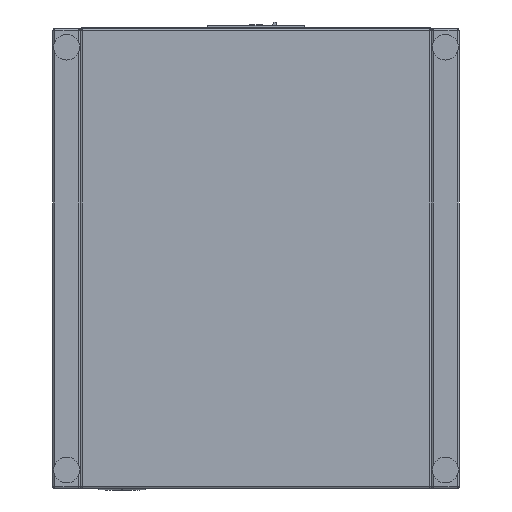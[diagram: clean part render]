
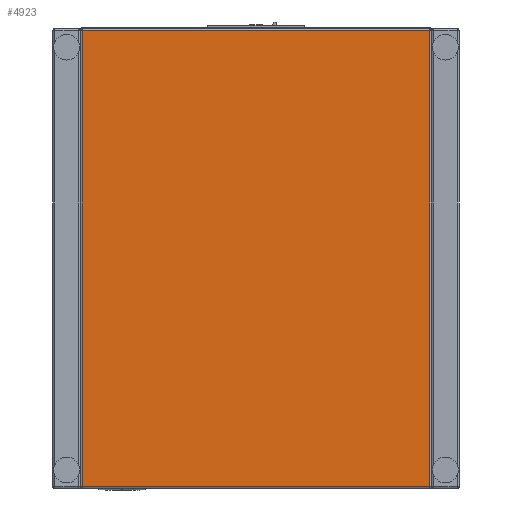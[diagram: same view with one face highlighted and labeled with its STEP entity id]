
A CAD part, front view. The second image highlights one B-rep face of the part: STEP entity #4923.
In plain terms, the highlighted planar face has unit normal (0, -1, 0).
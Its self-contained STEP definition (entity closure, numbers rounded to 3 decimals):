
#171=PLANE('',#5449);
#290=LINE('',#7921,#689);
#294=LINE('',#7927,#693);
#298=LINE('',#7933,#697);
#304=LINE('',#7942,#703);
#689=VECTOR('',#6159,10.);
#693=VECTOR('',#6167,10.);
#697=VECTOR('',#6175,10.);
#703=VECTOR('',#6187,10.);
#1242=FACE_OUTER_BOUND('',#1573,.T.);
#1573=EDGE_LOOP('',(#3469,#3470,#3471,#3472));
#2234=VERTEX_POINT('',#7879);
#2242=VERTEX_POINT('',#7896);
#2246=VERTEX_POINT('',#7907);
#2249=VERTEX_POINT('',#7914);
#2686=EDGE_CURVE('',#2249,#2242,#290,.T.);
#2690=EDGE_CURVE('',#2246,#2249,#294,.T.);
#2694=EDGE_CURVE('',#2234,#2246,#298,.T.);
#2700=EDGE_CURVE('',#2242,#2234,#304,.T.);
#3469=ORIENTED_EDGE('',*,*,#2686,.F.);
#3470=ORIENTED_EDGE('',*,*,#2690,.F.);
#3471=ORIENTED_EDGE('',*,*,#2694,.F.);
#3472=ORIENTED_EDGE('',*,*,#2700,.F.);
#4923=ADVANCED_FACE('',(#1242),#171,.T.);
#5449=AXIS2_PLACEMENT_3D('',#7957,#6207,#6208);
#6159=DIRECTION('',(1.,0.,0.));
#6167=DIRECTION('',(0.,0.,1.));
#6175=DIRECTION('',(-1.,0.,0.));
#6187=DIRECTION('',(0.,0.,-1.));
#6207=DIRECTION('center_axis',(0.,-1.,0.));
#6208=DIRECTION('ref_axis',(0.,0.,-1.));
#7879=CARTESIAN_POINT('',(189.,0.,-248.));
#7896=CARTESIAN_POINT('',(189.,0.,248.));
#7907=CARTESIAN_POINT('',(-189.,0.,-248.));
#7914=CARTESIAN_POINT('',(-189.,0.,248.));
#7921=CARTESIAN_POINT('',(-95.5,0.,248.));
#7927=CARTESIAN_POINT('',(-189.,0.,-125.));
#7933=CARTESIAN_POINT('',(95.5,0.,-248.));
#7942=CARTESIAN_POINT('',(189.,0.,125.));
#7957=CARTESIAN_POINT('Origin',(0.,0.,0.));
